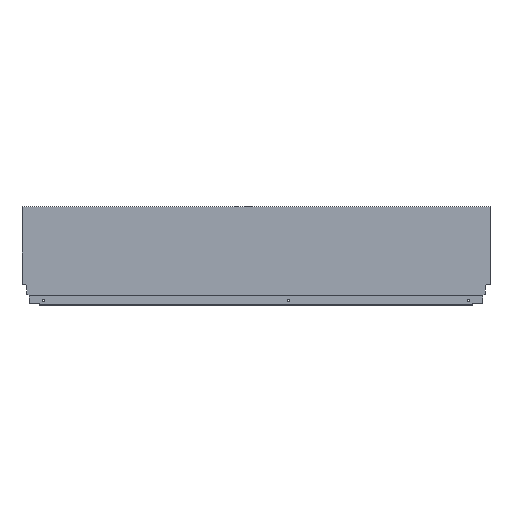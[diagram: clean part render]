
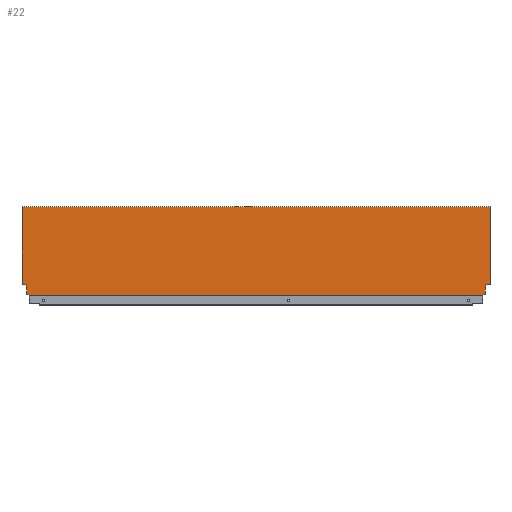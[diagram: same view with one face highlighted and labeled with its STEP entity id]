
A CAD part, top view. The second image highlights one B-rep face of the part: STEP entity #22.
In plain terms, the highlighted planar face has unit normal (0, 0, 1).
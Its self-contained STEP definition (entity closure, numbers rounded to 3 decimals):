
#22 = ADVANCED_FACE ( 'NONE', ( #322 ), #826, .T. ) ;
#139 = CARTESIAN_POINT ( 'NONE',  ( 0., 21.2, 7.5 ) ) ;
#140 = DIRECTION ( 'NONE',  ( 0., -1., 0. ) ) ;
#142 = DIRECTION ( 'NONE',  ( 0., -1., 0. ) ) ;
#143 = CARTESIAN_POINT ( 'NONE',  ( -863., 0., 7.5 ) ) ;
#145 = DIRECTION ( 'NONE',  ( -0.94, -0.342, 0. ) ) ;
#146 = CARTESIAN_POINT ( 'NONE',  ( -8.9, 2.64, 7.5 ) ) ;
#147 = DIRECTION ( 'NONE',  ( 0., -1., 0. ) ) ;
#148 = CARTESIAN_POINT ( 'NONE',  ( -8.9, 10.765, 7.5 ) ) ;
#149 = CARTESIAN_POINT ( 'NONE',  ( -13.004, 1.146, 7.5 ) ) ;
#150 = DIRECTION ( 'NONE',  ( 1., 0., 0. ) ) ;
#151 = DIRECTION ( 'NONE',  ( 0., -1., 0. ) ) ;
#152 = CARTESIAN_POINT ( 'NONE',  ( -863., 164.7, 7.5 ) ) ;
#153 = CARTESIAN_POINT ( 'NONE',  ( 0., 0., 7.5 ) ) ;
#154 = DIRECTION ( 'NONE',  ( -0.174, -0.985, 0. ) ) ;
#155 = CARTESIAN_POINT ( 'NONE',  ( -7.06, 21.2, 7.5 ) ) ;
#160 = DIRECTION ( 'NONE',  ( -1., 0., 0. ) ) ;
#322 = FACE_OUTER_BOUND ( 'NONE', #353, .T. ) ;
#353 = EDGE_LOOP ( 'NONE', ( #435, #436, #437, #438, #439, #440, #442, #443, #444, #459, #463, #462, #461, #460 ) ) ;
#435 = ORIENTED_EDGE ( 'NONE', *, *, #1437, .T. ) ;
#436 = ORIENTED_EDGE ( 'NONE', *, *, #1442, .F. ) ;
#437 = ORIENTED_EDGE ( 'NONE', *, *, #1441, .F. ) ;
#438 = ORIENTED_EDGE ( 'NONE', *, *, #1440, .F. ) ;
#439 = ORIENTED_EDGE ( 'NONE', *, *, #1439, .F. ) ;
#440 = ORIENTED_EDGE ( 'NONE', *, *, #1446, .F. ) ;
#442 = ORIENTED_EDGE ( 'NONE', *, *, #1443, .T. ) ;
#443 = ORIENTED_EDGE ( 'NONE', *, *, #1438, .F. ) ;
#444 = ORIENTED_EDGE ( 'NONE', *, *, #1436, .F. ) ;
#459 = ORIENTED_EDGE ( 'NONE', *, *, #1435, .F. ) ;
#460 = ORIENTED_EDGE ( 'NONE', *, *, #1429, .F. ) ;
#461 = ORIENTED_EDGE ( 'NONE', *, *, #1434, .F. ) ;
#462 = ORIENTED_EDGE ( 'NONE', *, *, #1431, .F. ) ;
#463 = ORIENTED_EDGE ( 'NONE', *, *, #1433, .F. ) ;
#672 = DIRECTION ( 'NONE',  ( -1., 0., 0. ) ) ;
#673 = CARTESIAN_POINT ( 'NONE',  ( -868., 21.2, 7.5 ) ) ;
#679 = DIRECTION ( 'NONE',  ( -0.174, 0.985, 0. ) ) ;
#680 = DIRECTION ( 'NONE',  ( 0., 1., 0. ) ) ;
#681 = CARTESIAN_POINT ( 'NONE',  ( -849.996, 1.146, 7.5 ) ) ;
#682 = CARTESIAN_POINT ( 'NONE',  ( -855.94, 21.2, 7.5 ) ) ;
#683 = CARTESIAN_POINT ( 'NONE',  ( -854.1, 2.64, 7.5 ) ) ;
#685 = DIRECTION ( 'NONE',  ( 0., 1., 0. ) ) ;
#688 = CARTESIAN_POINT ( 'NONE',  ( -854.1, 10.765, 7.5 ) ) ;
#691 = DIRECTION ( 'NONE',  ( 1., 0., 0. ) ) ;
#692 = CARTESIAN_POINT ( 'NONE',  ( -863., 0., 7.5 ) ) ;
#693 = DIRECTION ( 'NONE',  ( -0.94, 0.342, 0. ) ) ;
#699 = CARTESIAN_POINT ( 'NONE',  ( -863., 21.2, 7.5 ) ) ;
#710 = CARTESIAN_POINT ( 'NONE',  ( -8.9, 2.64, 7.5 ) ) ;
#810 = DIRECTION ( 'NONE',  ( 1., 0., 0. ) ) ;
#811 = DIRECTION ( 'NONE',  ( 0., 0., 1. ) ) ;
#823 = CARTESIAN_POINT ( 'NONE',  ( -863., 0., 7.5 ) ) ;
#826 = PLANE ( 'NONE',  #1483 ) ;
#894 = VERTEX_POINT ( 'NONE', #710 ) ;
#895 = VERTEX_POINT ( 'NONE', #699 ) ;
#904 = VERTEX_POINT ( 'NONE', #1202 ) ;
#915 = VERTEX_POINT ( 'NONE', #1173 ) ;
#918 = VERTEX_POINT ( 'NONE', #1164 ) ;
#919 = VERTEX_POINT ( 'NONE', #1161 ) ;
#928 = VERTEX_POINT ( 'NONE', #1131 ) ;
#933 = VERTEX_POINT ( 'NONE', #1200 ) ;
#940 = VERTEX_POINT ( 'NONE', #1190 ) ;
#948 = VERTEX_POINT ( 'NONE', #1178 ) ;
#949 = VERTEX_POINT ( 'NONE', #1175 ) ;
#955 = VERTEX_POINT ( 'NONE', #1166 ) ;
#970 = VERTEX_POINT ( 'NONE', #1144 ) ;
#971 = VERTEX_POINT ( 'NONE', #1143 ) ;
#1052 = LINE ( 'NONE', #149, #1075 ) ;
#1054 = VECTOR ( 'NONE', #680, 1000. ) ;
#1057 = LINE ( 'NONE', #152, #1058 ) ;
#1058 = VECTOR ( 'NONE', #150, 1000. ) ;
#1060 = LINE ( 'NONE', #681, #1054 ) ;
#1061 = LINE ( 'NONE', #139, #1062 ) ;
#1062 = VECTOR ( 'NONE', #160, 1000. ) ;
#1065 = LINE ( 'NONE', #155, #1066 ) ;
#1066 = VECTOR ( 'NONE', #154, 1000. ) ;
#1067 = LINE ( 'NONE', #153, #1068 ) ;
#1068 = VECTOR ( 'NONE', #151, 1000. ) ;
#1069 = LINE ( 'NONE', #148, #1070 ) ;
#1070 = VECTOR ( 'NONE', #147, 1000. ) ;
#1071 = LINE ( 'NONE', #146, #1072 ) ;
#1072 = VECTOR ( 'NONE', #145, 1000. ) ;
#1073 = LINE ( 'NONE', #143, #1074 ) ;
#1074 = VECTOR ( 'NONE', #142, 1000. ) ;
#1075 = VECTOR ( 'NONE', #140, 1000. ) ;
#1077 = LINE ( 'NONE', #683, #1078 ) ;
#1078 = VECTOR ( 'NONE', #693, 1000. ) ;
#1079 = LINE ( 'NONE', #688, #1080 ) ;
#1080 = VECTOR ( 'NONE', #685, 1000. ) ;
#1081 = LINE ( 'NONE', #682, #1082 ) ;
#1082 = VECTOR ( 'NONE', #679, 1000. ) ;
#1083 = LINE ( 'NONE', #673, #1084 ) ;
#1084 = VECTOR ( 'NONE', #672, 1000. ) ;
#1085 = LINE ( 'NONE', #692, #1086 ) ;
#1086 = VECTOR ( 'NONE', #691, 1000. ) ;
#1131 = CARTESIAN_POINT ( 'NONE',  ( -13.004, 0., 7.5 ) ) ;
#1143 = CARTESIAN_POINT ( 'NONE',  ( -854.1, 10.765, 7.5 ) ) ;
#1144 = CARTESIAN_POINT ( 'NONE',  ( 0., 164.7, 7.5 ) ) ;
#1161 = CARTESIAN_POINT ( 'NONE',  ( -849.996, 0., 7.5 ) ) ;
#1164 = CARTESIAN_POINT ( 'NONE',  ( 0., 21.2, 7.5 ) ) ;
#1166 = CARTESIAN_POINT ( 'NONE',  ( -855.94, 21.2, 7.5 ) ) ;
#1173 = CARTESIAN_POINT ( 'NONE',  ( -849.996, 1.146, 7.5 ) ) ;
#1175 = CARTESIAN_POINT ( 'NONE',  ( -13.004, 1.146, 7.5 ) ) ;
#1178 = CARTESIAN_POINT ( 'NONE',  ( -854.1, 2.64, 7.5 ) ) ;
#1190 = CARTESIAN_POINT ( 'NONE',  ( -8.9, 10.765, 7.5 ) ) ;
#1200 = CARTESIAN_POINT ( 'NONE',  ( -7.06, 21.2, 7.5 ) ) ;
#1202 = CARTESIAN_POINT ( 'NONE',  ( -863., 164.7, 7.5 ) ) ;
#1429 = EDGE_CURVE ( 'NONE', #904, #970, #1057, .T. ) ;
#1431 = EDGE_CURVE ( 'NONE', #918, #933, #1061, .T. ) ;
#1433 = EDGE_CURVE ( 'NONE', #933, #940, #1065, .T. ) ;
#1434 = EDGE_CURVE ( 'NONE', #970, #918, #1067, .T. ) ;
#1435 = EDGE_CURVE ( 'NONE', #940, #894, #1069, .T. ) ;
#1436 = EDGE_CURVE ( 'NONE', #894, #949, #1071, .T. ) ;
#1437 = EDGE_CURVE ( 'NONE', #904, #895, #1073, .T. ) ;
#1438 = EDGE_CURVE ( 'NONE', #949, #928, #1052, .T. ) ;
#1439 = EDGE_CURVE ( 'NONE', #915, #948, #1077, .T. ) ;
#1440 = EDGE_CURVE ( 'NONE', #948, #971, #1079, .T. ) ;
#1441 = EDGE_CURVE ( 'NONE', #971, #955, #1081, .T. ) ;
#1442 = EDGE_CURVE ( 'NONE', #955, #895, #1083, .T. ) ;
#1443 = EDGE_CURVE ( 'NONE', #919, #928, #1085, .T. ) ;
#1446 = EDGE_CURVE ( 'NONE', #919, #915, #1060, .T. ) ;
#1483 = AXIS2_PLACEMENT_3D ( 'NONE', #823, #811, #810 ) ;
